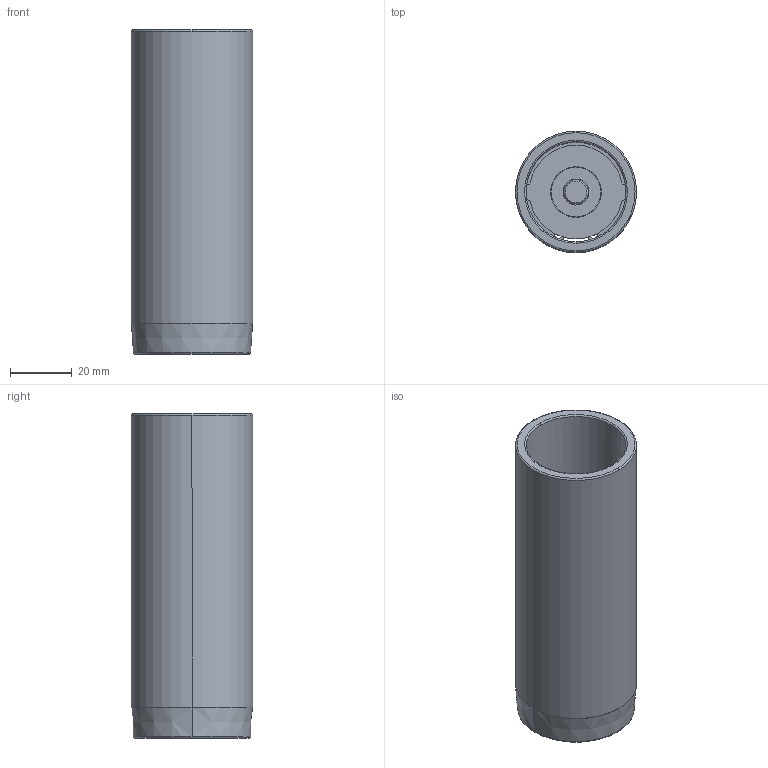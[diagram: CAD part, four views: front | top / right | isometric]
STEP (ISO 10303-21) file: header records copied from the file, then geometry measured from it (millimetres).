
FILE_DESCRIPTION((''),'2;1');
FILE_NAME('C12_032_105.stp','2009-01-28T09:49:45',(''),(''),'Mechanical Desktop 2009','Mechanical Desktop 2009',', , ');
FILE_SCHEMA(('CONFIG_CONTROL_DESIGN'));
Length unit declared in the file: millimetre
Products named in the file (2): Product; blmdl1
Assembly tree (1 placements, depth 2):
  Product
    blmdl1
Bounding box: 39.25 x 39.25 x 105 mm (x, y, z)
Volume: 43654.7 mm3; surface area: 28953.9 mm2
Topology: 5 solids, 5 shells, 79 faces, 200 edges, 134 vertices
Faces by surface type: cylinder 34, plane 29, torus 10, cone 6
Entity records: 2585 total; most frequent: DIRECTION 480, CARTESIAN_POINT 435, ORIENTED_EDGE 400, AXIS2_PLACEMENT_3D 203, EDGE_CURVE 200, VERTEX_POINT 134, CIRCLE 122, EDGE_LOOP 92
